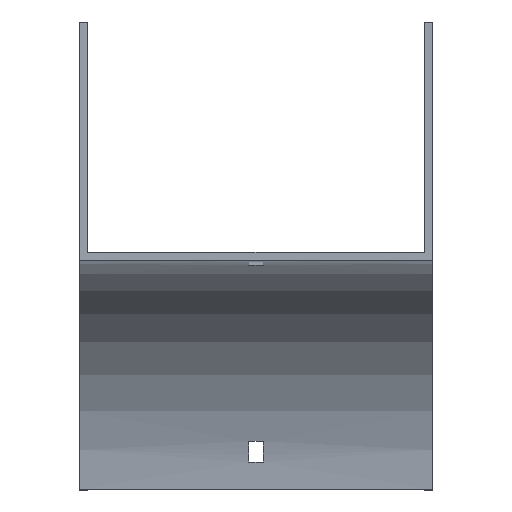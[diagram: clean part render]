
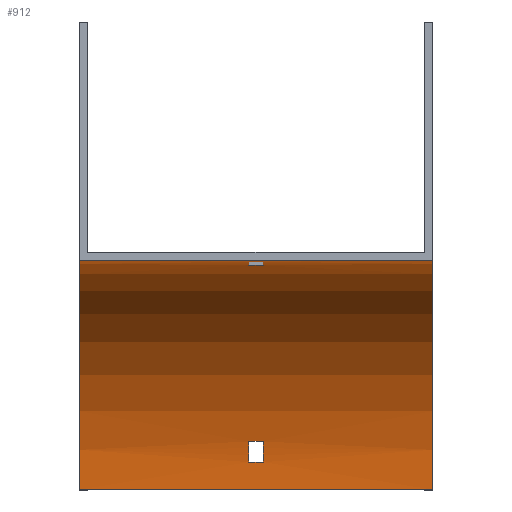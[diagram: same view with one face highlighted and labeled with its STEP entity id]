
A CAD part, top view. The second image highlights one B-rep face of the part: STEP entity #912.
In plain terms, the highlighted cylindrical face has radius 100 mm (diameter 200 mm), a partial arc.
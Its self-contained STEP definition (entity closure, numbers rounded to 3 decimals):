
#26 = EDGE_CURVE ( 'NONE', #660, #1121, #110, .T. ) ;
#34 = EDGE_CURVE ( 'NONE', #782, #275, #1300, .T. ) ;
#36 = FACE_OUTER_BOUND ( 'NONE', #635, .T. ) ;
#39 = VERTEX_POINT ( 'NONE', #1252 ) ;
#55 = DIRECTION ( 'NONE',  ( 0., 0., 1. ) ) ;
#57 = EDGE_CURVE ( 'NONE', #641, #1137, #131, .T. ) ;
#66 = DIRECTION ( 'NONE',  ( 1., 0., 0. ) ) ;
#68 = EDGE_CURVE ( 'NONE', #195, #39, #287, .T. ) ;
#110 = CIRCLE ( 'NONE', #1113, 100. ) ;
#131 = LINE ( 'NONE', #1447, #296 ) ;
#144 = DIRECTION ( 'NONE',  ( -1., 0., 0. ) ) ;
#148 = DIRECTION ( 'NONE',  ( 0., 0., -1. ) ) ;
#188 = CARTESIAN_POINT ( 'NONE',  ( -77., -100., -100. ) ) ;
#191 = VECTOR ( 'NONE', #929, 1000. ) ;
#192 = ORIENTED_EDGE ( 'NONE', *, *, #615, .T. ) ;
#195 = VERTEX_POINT ( 'NONE', #932 ) ;
#212 = VERTEX_POINT ( 'NONE', #1506 ) ;
#216 = DIRECTION ( 'NONE',  ( 0., 0., 1. ) ) ;
#219 = DIRECTION ( 'NONE',  ( 0., -1., 0. ) ) ;
#252 = ORIENTED_EDGE ( 'NONE', *, *, #1220, .T. ) ;
#269 = CARTESIAN_POINT ( 'NONE',  ( 77., 0., 0. ) ) ;
#275 = VERTEX_POINT ( 'NONE', #978 ) ;
#287 = LINE ( 'NONE', #269, #1410 ) ;
#296 = VECTOR ( 'NONE', #1181, 1000. ) ;
#303 = CARTESIAN_POINT ( 'NONE',  ( 77., -100., 0. ) ) ;
#311 = AXIS2_PLACEMENT_3D ( 'NONE', #1051, #553, #148 ) ;
#330 = CARTESIAN_POINT ( 'NONE',  ( 77., -100., 0. ) ) ;
#351 = CARTESIAN_POINT ( 'NONE',  ( 3.25, -100., 0. ) ) ;
#364 = CARTESIAN_POINT ( 'NONE',  ( -3.25, -0.723, -12. ) ) ;
#391 = ORIENTED_EDGE ( 'NONE', *, *, #57, .T. ) ;
#426 = LINE ( 'NONE', #938, #1317 ) ;
#429 = CARTESIAN_POINT ( 'NONE',  ( 77., -2.23, -21. ) ) ;
#458 = EDGE_CURVE ( 'NONE', #1121, #782, #664, .T. ) ;
#460 = VERTEX_POINT ( 'NONE', #188 ) ;
#477 = VECTOR ( 'NONE', #1197, 1000. ) ;
#483 = CARTESIAN_POINT ( 'NONE',  ( -3.25, -100., 0. ) ) ;
#484 = DIRECTION ( 'NONE',  ( 1., 0., 0. ) ) ;
#486 = ORIENTED_EDGE ( 'NONE', *, *, #1513, .F. ) ;
#511 = AXIS2_PLACEMENT_3D ( 'NONE', #483, #736, #1655 ) ;
#528 = AXIS2_PLACEMENT_3D ( 'NONE', #985, #66, #55 ) ;
#553 = DIRECTION ( 'NONE',  ( -1., 0., 0. ) ) ;
#562 = DIRECTION ( 'NONE',  ( -1., 0., 0. ) ) ;
#564 = ORIENTED_EDGE ( 'NONE', *, *, #26, .F. ) ;
#615 = EDGE_CURVE ( 'NONE', #1155, #641, #1046, .T. ) ;
#617 = EDGE_LOOP ( 'NONE', ( #1566, #1639, #564, #486 ) ) ;
#635 = EDGE_LOOP ( 'NONE', ( #1118, #1038, #922, #668 ) ) ;
#641 = VERTEX_POINT ( 'NONE', #364 ) ;
#659 = DIRECTION ( 'NONE',  ( -1., 0., 0. ) ) ;
#660 = VERTEX_POINT ( 'NONE', #1003 ) ;
#664 = LINE ( 'NONE', #1560, #191 ) ;
#668 = ORIENTED_EDGE ( 'NONE', *, *, #68, .T. ) ;
#675 = VECTOR ( 'NONE', #484, 1000. ) ;
#736 = DIRECTION ( 'NONE',  ( -1., 0., 0. ) ) ;
#747 = CARTESIAN_POINT ( 'NONE',  ( 3.25, -79., -97.77 ) ) ;
#782 = VERTEX_POINT ( 'NONE', #1425 ) ;
#801 = EDGE_CURVE ( 'NONE', #39, #460, #1424, .T. ) ;
#812 = AXIS2_PLACEMENT_3D ( 'NONE', #330, #829, #1516 ) ;
#816 = LINE ( 'NONE', #429, #477 ) ;
#829 = DIRECTION ( 'NONE',  ( -1., 0., 0. ) ) ;
#872 = DIRECTION ( 'NONE',  ( 1., 0., 0. ) ) ;
#905 = EDGE_CURVE ( 'NONE', #212, #1155, #816, .T. ) ;
#912 = ADVANCED_FACE ( 'NONE', ( #36, #953, #1600 ), #1176, .F. ) ;
#922 = ORIENTED_EDGE ( 'NONE', *, *, #1363, .F. ) ;
#929 = DIRECTION ( 'NONE',  ( -1., 0., 0. ) ) ;
#932 = CARTESIAN_POINT ( 'NONE',  ( 77., 0., 0. ) ) ;
#938 = CARTESIAN_POINT ( 'NONE',  ( 77., -100., -100. ) ) ;
#953 = FACE_BOUND ( 'NONE', #1040, .T. ) ;
#978 = CARTESIAN_POINT ( 'NONE',  ( -3.25, -88., -99.277 ) ) ;
#985 = CARTESIAN_POINT ( 'NONE',  ( -3.25, -100., 0. ) ) ;
#1003 = CARTESIAN_POINT ( 'NONE',  ( 3.25, -88., -99.277 ) ) ;
#1006 = LINE ( 'NONE', #1656, #675 ) ;
#1038 = ORIENTED_EDGE ( 'NONE', *, *, #1279, .F. ) ;
#1040 = EDGE_LOOP ( 'NONE', ( #1084, #192, #391, #252 ) ) ;
#1046 = CIRCLE ( 'NONE', #528, 100. ) ;
#1051 = CARTESIAN_POINT ( 'NONE',  ( 3.25, -100., 0. ) ) ;
#1054 = CARTESIAN_POINT ( 'NONE',  ( -77., -100., 0. ) ) ;
#1082 = CIRCLE ( 'NONE', #812, 100. ) ;
#1084 = ORIENTED_EDGE ( 'NONE', *, *, #905, .T. ) ;
#1113 = AXIS2_PLACEMENT_3D ( 'NONE', #351, #872, #219 ) ;
#1118 = ORIENTED_EDGE ( 'NONE', *, *, #801, .T. ) ;
#1121 = VERTEX_POINT ( 'NONE', #747 ) ;
#1137 = VERTEX_POINT ( 'NONE', #1273 ) ;
#1155 = VERTEX_POINT ( 'NONE', #1416 ) ;
#1172 = CARTESIAN_POINT ( 'NONE',  ( 77., -100., -100. ) ) ;
#1176 = CYLINDRICAL_SURFACE ( 'NONE', #1423, 100. ) ;
#1181 = DIRECTION ( 'NONE',  ( 1., 0., 0. ) ) ;
#1197 = DIRECTION ( 'NONE',  ( -1., 0., 0. ) ) ;
#1219 = VERTEX_POINT ( 'NONE', #1172 ) ;
#1220 = EDGE_CURVE ( 'NONE', #1137, #212, #1289, .T. ) ;
#1252 = CARTESIAN_POINT ( 'NONE',  ( -77., 0., 0. ) ) ;
#1273 = CARTESIAN_POINT ( 'NONE',  ( 3.25, -0.723, -12. ) ) ;
#1279 = EDGE_CURVE ( 'NONE', #1219, #460, #426, .T. ) ;
#1289 = CIRCLE ( 'NONE', #311, 100. ) ;
#1300 = CIRCLE ( 'NONE', #511, 100. ) ;
#1317 = VECTOR ( 'NONE', #562, 1000. ) ;
#1350 = DIRECTION ( 'NONE',  ( -1., 0., 0. ) ) ;
#1363 = EDGE_CURVE ( 'NONE', #195, #1219, #1082, .T. ) ;
#1410 = VECTOR ( 'NONE', #659, 1000. ) ;
#1416 = CARTESIAN_POINT ( 'NONE',  ( -3.25, -2.23, -21. ) ) ;
#1423 = AXIS2_PLACEMENT_3D ( 'NONE', #303, #1350, #216 ) ;
#1424 = CIRCLE ( 'NONE', #1654, 100. ) ;
#1425 = CARTESIAN_POINT ( 'NONE',  ( -3.25, -79., -97.77 ) ) ;
#1447 = CARTESIAN_POINT ( 'NONE',  ( 77., -0.723, -12. ) ) ;
#1469 = DIRECTION ( 'NONE',  ( 0., 0., 1. ) ) ;
#1506 = CARTESIAN_POINT ( 'NONE',  ( 3.25, -2.23, -21. ) ) ;
#1513 = EDGE_CURVE ( 'NONE', #275, #660, #1006, .T. ) ;
#1516 = DIRECTION ( 'NONE',  ( 0., 0., 1. ) ) ;
#1560 = CARTESIAN_POINT ( 'NONE',  ( 77., -79., -97.77 ) ) ;
#1566 = ORIENTED_EDGE ( 'NONE', *, *, #34, .F. ) ;
#1600 = FACE_BOUND ( 'NONE', #617, .T. ) ;
#1639 = ORIENTED_EDGE ( 'NONE', *, *, #458, .F. ) ;
#1654 = AXIS2_PLACEMENT_3D ( 'NONE', #1054, #144, #1469 ) ;
#1655 = DIRECTION ( 'NONE',  ( 0., 1., 0. ) ) ;
#1656 = CARTESIAN_POINT ( 'NONE',  ( 77., -88., -99.277 ) ) ;
